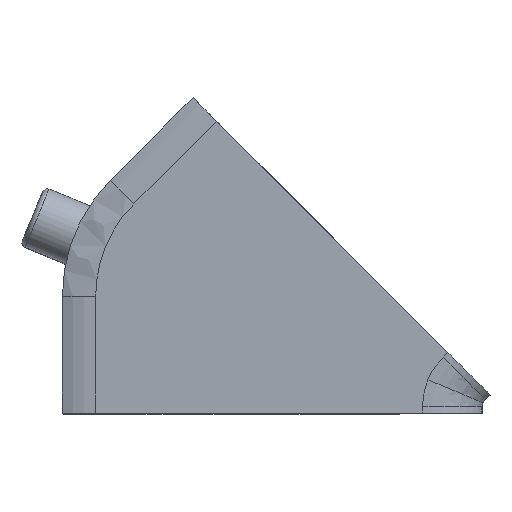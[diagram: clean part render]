
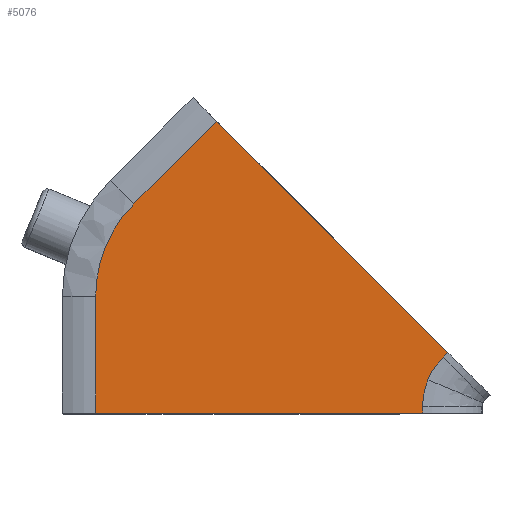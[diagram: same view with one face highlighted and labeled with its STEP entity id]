
A CAD part, top view. The second image highlights one B-rep face of the part: STEP entity #5076.
In plain terms, the highlighted planar face has unit normal (0, 0, 1).
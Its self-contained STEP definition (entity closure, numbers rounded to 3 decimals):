
#9 = CARTESIAN_POINT ( 'NONE',  ( 13.441, 2.224, 0. ) ) ;
#297 = CARTESIAN_POINT ( 'NONE',  ( 13.441, 2.224, 0. ) ) ;
#301 = AXIS2_PLACEMENT_3D ( 'NONE', #2242, #4349, #710 ) ;
#303 = CARTESIAN_POINT ( 'NONE',  ( -2.511, 0., 0. ) ) ;
#336 = VECTOR ( 'NONE', #1513, 1000. ) ;
#337 = EDGE_CURVE ( 'NONE', #2310, #1738, #3248, .T. ) ;
#344 = ORIENTED_EDGE ( 'NONE', *, *, #2474, .F. ) ;
#351 = CARTESIAN_POINT ( 'NONE',  ( 4.447, 11.592, 0. ) ) ;
#407 = CARTESIAN_POINT ( 'NONE',  ( 12.629, 0.264, 0. ) ) ;
#423 = EDGE_CURVE ( 'NONE', #4346, #570, #4030, .T. ) ;
#523 = VECTOR ( 'NONE', #1126, 1000. ) ;
#570 = VERTEX_POINT ( 'NONE', #407 ) ;
#603 = ORIENTED_EDGE ( 'NONE', *, *, #3211, .F. ) ;
#710 = DIRECTION ( 'NONE',  ( -1., 0., 0. ) ) ;
#783 = CARTESIAN_POINT ( 'NONE',  ( 12.629, 0.629, 0. ) ) ;
#831 = EDGE_CURVE ( 'NONE', #5077, #3357, #3461, .T. ) ;
#864 = CARTESIAN_POINT ( 'NONE',  ( 12.7, 0.988, 0. ) ) ;
#909 = CARTESIAN_POINT ( 'NONE',  ( 1.162, 8.307, 0. ) ) ;
#1024 = CARTESIAN_POINT ( 'NONE',  ( 4.447, 11.592, 0. ) ) ;
#1055 =( BOUNDED_CURVE ( )  B_SPLINE_CURVE ( 3, ( #4875, #864, #783, #2097 ),
 .UNSPECIFIED., .F., .T. ) 
 B_SPLINE_CURVE_WITH_KNOTS ( ( 4, 4 ),
 ( 2.749, 3.142 ),
 .UNSPECIFIED. ) 
 CURVE ( )  GEOMETRIC_REPRESENTATION_ITEM ( )  RATIONAL_B_SPLINE_CURVE ( ( 1., 0.987, 0.987, 1. ) ) 
 REPRESENTATION_ITEM ( '' )  );
#1126 = DIRECTION ( 'NONE',  ( -0.707, -0.707, 0. ) ) ;
#1289 = VECTOR ( 'NONE', #1439, 1000. ) ;
#1304 = CARTESIAN_POINT ( 'NONE',  ( -0.355, 5.328, 0. ) ) ;
#1369 = VERTEX_POINT ( 'NONE', #2862 ) ;
#1439 = DIRECTION ( 'NONE',  ( -0.707, -0.707, 0. ) ) ;
#1513 = DIRECTION ( 'NONE',  ( -1., 0., 0. ) ) ;
#1730 = CARTESIAN_POINT ( 'NONE',  ( -0.355, 4.646, 0. ) ) ;
#1738 = VERTEX_POINT ( 'NONE', #2555 ) ;
#1757 = CARTESIAN_POINT ( 'NONE',  ( 1.162, 8.307, 0. ) ) ;
#1791 = CARTESIAN_POINT ( 'NONE',  ( 0.679, 7.825, 0. ) ) ;
#1842 = B_SPLINE_CURVE_WITH_KNOTS ( 'NONE', 3,
 ( #2448, #2074, #2827, #3336 ),
 .UNSPECIFIED., .F., .F.,
 ( 4, 4 ),
 ( 0., 1. ),
 .UNSPECIFIED. ) ;
#1890 = LINE ( 'NONE', #303, #336 ) ;
#1973 = ORIENTED_EDGE ( 'NONE', *, *, #3223, .T. ) ;
#2074 = CARTESIAN_POINT ( 'NONE',  ( 12.979, 1.661, 0. ) ) ;
#2097 = CARTESIAN_POINT ( 'NONE',  ( 12.629, 0.264, 0. ) ) ;
#2118 = LINE ( 'NONE', #3830, #5256 ) ;
#2120 = VERTEX_POINT ( 'NONE', #9 ) ;
#2139 = LINE ( 'NONE', #3794, #1289 ) ;
#2191 = CARTESIAN_POINT ( 'NONE',  ( -0.222, 5.997, 0. ) ) ;
#2242 = CARTESIAN_POINT ( 'NONE',  ( 13.5, 6.959, 0. ) ) ;
#2310 = VERTEX_POINT ( 'NONE', #1024 ) ;
#2388 = EDGE_LOOP ( 'NONE', ( #3484, #2441, #344, #5098, #2554, #603, #2694, #1973, #5008, #3110 ) ) ;
#2392 = VECTOR ( 'NONE', #2451, 1000. ) ;
#2441 = ORIENTED_EDGE ( 'NONE', *, *, #2665, .T. ) ;
#2448 = CARTESIAN_POINT ( 'NONE',  ( 12.84, 1.325, 0. ) ) ;
#2451 = DIRECTION ( 'NONE',  ( 0., 1., 0. ) ) ;
#2474 = EDGE_CURVE ( 'NONE', #1738, #2120, #3925, .T. ) ;
#2554 = ORIENTED_EDGE ( 'NONE', *, *, #3849, .T. ) ;
#2555 = CARTESIAN_POINT ( 'NONE',  ( 13.628, 2.411, 0. ) ) ;
#2578 = EDGE_CURVE ( 'NONE', #4765, #570, #1055, .T. ) ;
#2665 = EDGE_CURVE ( 'NONE', #4765, #2120, #1842, .T. ) ;
#2694 = ORIENTED_EDGE ( 'NONE', *, *, #831, .F. ) ;
#2827 = CARTESIAN_POINT ( 'NONE',  ( 13.183, 1.966, 0. ) ) ;
#2862 = CARTESIAN_POINT ( 'NONE',  ( -0.355, 0., 0. ) ) ;
#3000 = CARTESIAN_POINT ( 'NONE',  ( 0.039, 6.627, 0. ) ) ;
#3110 = ORIENTED_EDGE ( 'NONE', *, *, #423, .T. ) ;
#3145 = CARTESIAN_POINT ( 'NONE',  ( -0.355, 4.646, 0. ) ) ;
#3211 = EDGE_CURVE ( 'NONE', #3357, #4092, #5166, .T. ) ;
#3223 = EDGE_CURVE ( 'NONE', #5077, #1369, #2118, .T. ) ;
#3248 = LINE ( 'NONE', #351, #4379 ) ;
#3328 = CARTESIAN_POINT ( 'NONE',  ( 0.3, 7.257, 0. ) ) ;
#3336 = CARTESIAN_POINT ( 'NONE',  ( 13.441, 2.224, 0. ) ) ;
#3357 = VERTEX_POINT ( 'NONE', #3719 ) ;
#3461 =( BOUNDED_CURVE ( )  B_SPLINE_CURVE ( 3, ( #1730, #1304, #2191, #3000 ),
 .UNSPECIFIED., .F., .T. ) 
 B_SPLINE_CURVE_WITH_KNOTS ( ( 4, 4 ),
 ( -3.142, -2.749 ),
 .UNSPECIFIED. ) 
 CURVE ( )  GEOMETRIC_REPRESENTATION_ITEM ( )  RATIONAL_B_SPLINE_CURVE ( ( 1., 0.987, 0.987, 1. ) ) 
 REPRESENTATION_ITEM ( '' )  );
#3484 = ORIENTED_EDGE ( 'NONE', *, *, #2578, .F. ) ;
#3719 = CARTESIAN_POINT ( 'NONE',  ( 0.039, 6.627, 0. ) ) ;
#3766 = DIRECTION ( 'NONE',  ( 0., -1., 0. ) ) ;
#3794 = CARTESIAN_POINT ( 'NONE',  ( 4.447, 11.592, 0. ) ) ;
#3830 = CARTESIAN_POINT ( 'NONE',  ( -0.355, 6.959, 0. ) ) ;
#3849 = EDGE_CURVE ( 'NONE', #2310, #4092, #2139, .T. ) ;
#3854 = CARTESIAN_POINT ( 'NONE',  ( 0.039, 6.627, 0. ) ) ;
#3925 = LINE ( 'NONE', #297, #523 ) ;
#4001 = FACE_OUTER_BOUND ( 'NONE', #2388, .T. ) ;
#4030 = LINE ( 'NONE', #4058, #2392 ) ;
#4058 = CARTESIAN_POINT ( 'NONE',  ( 12.629, 6.959, 0. ) ) ;
#4092 = VERTEX_POINT ( 'NONE', #1757 ) ;
#4185 = CARTESIAN_POINT ( 'NONE',  ( 12.629, 0., 0. ) ) ;
#4346 = VERTEX_POINT ( 'NONE', #4185 ) ;
#4349 = DIRECTION ( 'NONE',  ( 0., 0., 1. ) ) ;
#4379 = VECTOR ( 'NONE', #4901, 1000. ) ;
#4765 = VERTEX_POINT ( 'NONE', #5169 ) ;
#4803 = EDGE_CURVE ( 'NONE', #4346, #1369, #1890, .T. ) ;
#4875 = CARTESIAN_POINT ( 'NONE',  ( 12.84, 1.325, 0. ) ) ;
#4901 = DIRECTION ( 'NONE',  ( 0.707, -0.707, 0. ) ) ;
#5008 = ORIENTED_EDGE ( 'NONE', *, *, #4803, .F. ) ;
#5076 = ADVANCED_FACE ( 'NONE', ( #4001 ), #5188, .T. ) ;
#5077 = VERTEX_POINT ( 'NONE', #3145 ) ;
#5098 = ORIENTED_EDGE ( 'NONE', *, *, #337, .F. ) ;
#5166 =( BOUNDED_CURVE ( )  B_SPLINE_CURVE ( 3, ( #3854, #3328, #1791, #909 ),
 .UNSPECIFIED., .F., .T. ) 
 B_SPLINE_CURVE_WITH_KNOTS ( ( 4, 4 ),
 ( 0., 1. ),
 .UNSPECIFIED. ) 
 CURVE ( )  GEOMETRIC_REPRESENTATION_ITEM ( )  RATIONAL_B_SPLINE_CURVE ( ( 1., 0.987, 0.987, 1. ) ) 
 REPRESENTATION_ITEM ( '' )  );
#5169 = CARTESIAN_POINT ( 'NONE',  ( 12.84, 1.325, 0. ) ) ;
#5188 = PLANE ( 'NONE',  #301 ) ;
#5256 = VECTOR ( 'NONE', #3766, 1000. ) ;
